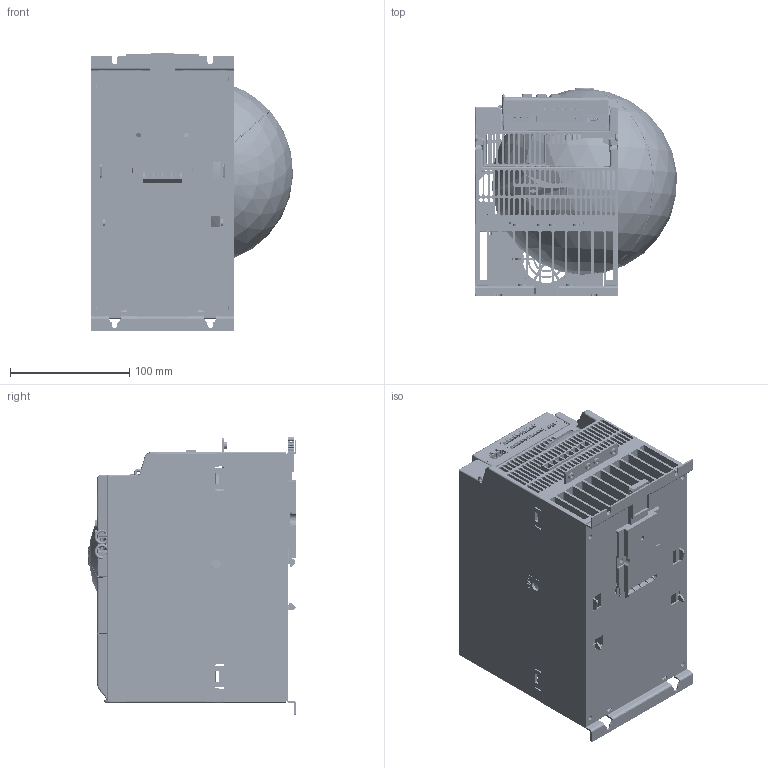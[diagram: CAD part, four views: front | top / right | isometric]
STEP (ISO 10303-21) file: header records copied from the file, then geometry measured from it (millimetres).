
FILE_DESCRIPTION((''),'2;1');
FILE_NAME('D_HOUSING','2018-06-26T10:07:07',('sha2xi'),(''),'CREO PARAMETRIC BY PTC INC, 2017260','CREO PARAMETRIC BY PTC INC, 2017260','');
FILE_SCHEMA(('AUTOMOTIVE_DESIGN { 1 0 10303 214 1 1 1 1 }'));
Products named in the file (42): HEATSINK_6_1_1_1_1; P_E1_3_1_1_1_1; P_FAN_COVER1-2014_04_10_3_1_1_1; EFC5610_3KW_CASE_3_1_1_1_1; PL_EFC5610_IOCAE_CONVER_3_1_1_1; CPU_CONNECTOR-14P_3_1_1_1_1; CONNECTOR_3_1_1_1_1; CONNECTOR_TYCO-331_3_1_1_1_1; 548190519_3_1_1_1_1; CONNECT2-2_3_1_1_1_1; 2185-205SY3_3_1_1_1_1; 1155590000_3_1_1_1_1; LK_YCP06_3_1_1_1_1; DB272710_3_1_1_1_1; 01-IOBACK_CASE_3_1_1_1_1; LD_KCCT_M3X10_4_1_1_1_1; E_CONNECTOR_2X5_IO_M_3_1_1_1_1; 01-IOCASE_3_1_1_1_1; 01_DISPLAYCASE_3_1_1_1_1; R911329772_3_1_1_1_1; R911330025_3_1_1_1_1; LED_3_1_1_1_1; CONNECTOR2_3_1_1_1_1; DISPLAY_PCB_3_1_1_1_1; BACK_CASE1_3_1_1_1_1; R911330333_FOLIE_3_1_1_1_1; BUUTTON_3_1_1_1_1; XUAN_NIU_3_1_1_1_1; LABEL_15X50_3_1_1_1_1; 02-DISPLAY-CASE_3_1_1_1_1; BOTTOM-PLATE_20170825_2_1_1_1_1; 00-D-S_5_1_1_1_1; PRT0010_0423_3_1_1_1_1; PRT0031_0423_3_1_1_1_1; DIN-0423_3_1_1_1_1; LOGO_REXROTH_3_1_1_1_1; 00_EFCX610-D-3PH-STO_12_1_1_1_1; EFC_D-HOUSING_STO_1_1_1_1; EFCX610_3PH_3_4KW_D_HOUSING_STO; D_HOUSING_1_1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
Assembly tree (50 placements, depth 10):
  D_HOUSING
    D_HOUSING_1
      D_HOUSING_1_1
        EFCX610_3PH_3_4KW_D_HOUSING_STO
          EFC_D-HOUSING_STO_1_1_1_1
            00_EFCX610-D-3PH-STO_12_1_1_1_1
              00-D-S_5_1_1_1_1
                HEATSINK_6_1_1_1_1
                P_E1_3_1_1_1_1
                P_FAN_COVER1-2014_04_10_3_1_1_1
                EFC5610_3KW_CASE_3_1_1_1_1
                01-IOCASE_3_1_1_1_1
                  PL_EFC5610_IOCAE_CONVER_3_1_1_1
                  LK_YCP06_3_1_1_1_1
                  DB272710_3_1_1_1_1
                  01-IOBACK_CASE_3_1_1_1_1
                  LD_KCCT_M3X10_4_1_1_1_1  x2
                  E_CONNECTOR_2X5_IO_M_3_1_1_1_1
                02-DISPLAY-CASE_3_1_1_1_1
                  01_DISPLAYCASE_3_1_1_1_1
                  DISPLAY_PCB_3_1_1_1_1
                    R911329772_3_1_1_1_1  x6
                  BACK_CASE1_3_1_1_1_1
                  R911330333_FOLIE_3_1_1_1_1
                  BUUTTON_3_1_1_1_1
                  XUAN_NIU_3_1_1_1_1
                  LD_KCCT_M3X10_4_1_1_1_1  x2
                  LABEL_15X50_3_1_1_1_1
                BOTTOM-PLATE_20170825_2_1_1_1_1
              DIN-0423_3_1_1_1_1
                PRT0010_0423_3_1_1_1_1
                PRT0031_0423_3_1_1_1_1
              LOGO_REXROTH_3_1_1_1_1
Bounding box: 169.52 x 175.05 x 233.5 mm (x, y, z)
Surface area: 743685 mm2 (no closed solid volume)
Topology: 0 solids, 0 shells, 9269 faces, 49913 edges, 49413 vertices
Faces by surface type: bspline 8772, torus 341, sphere 156
Entity records: 1036693 total; most frequent: CARTESIAN_POINT 343158, DIRECTION 82035, TRIMMED_CURVE 76278, VECTOR 71745, LINE 71745, PRESENTATION_STYLE_ASSIGNMENT 53763, STYLED_ITEM 53763, CURVE_STYLE 45217
